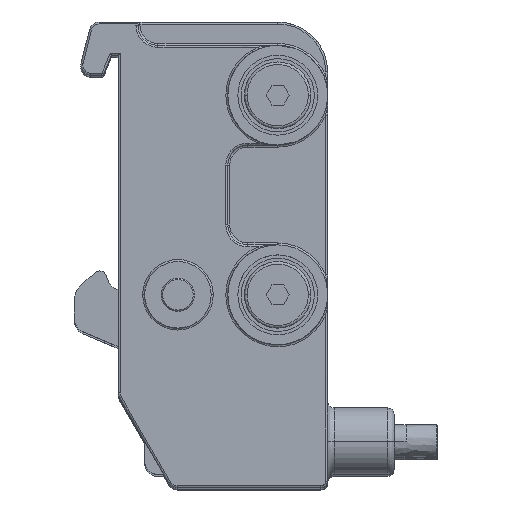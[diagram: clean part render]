
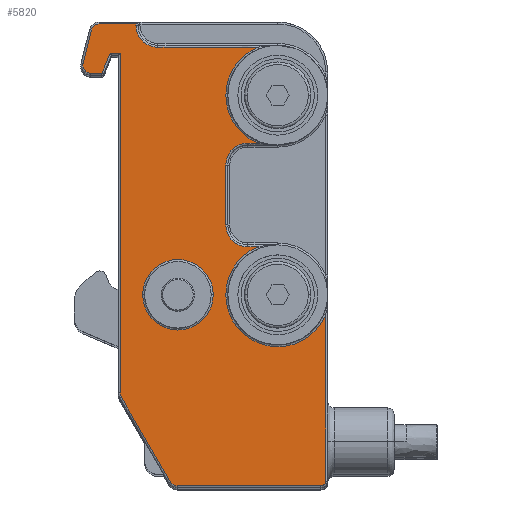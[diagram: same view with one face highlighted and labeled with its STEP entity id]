
A CAD part, top view. The second image highlights one B-rep face of the part: STEP entity #5820.
In plain terms, the highlighted free-form (B-spline) face has degree [1, 1] with [2, 2] control points.
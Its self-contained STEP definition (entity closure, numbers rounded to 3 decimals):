
#212=DIRECTION('',(0.,-1.,0.));
#213=VECTOR('',#212,51.042);
#214=CARTESIAN_POINT('',(-120.,119.55,96.5));
#215=LINE('',#214,#213);
#660=DIRECTION('',(0.,-1.,0.));
#661=VECTOR('',#660,25.);
#662=CARTESIAN_POINT('',(-89.1,80.25,96.5));
#663=LINE('',#662,#661);
#664=CARTESIAN_POINT('',(-89.8,55.25,96.5));
#665=DIRECTION('',(0.,0.,-1.));
#666=DIRECTION('',(1.,0.,0.));
#667=AXIS2_PLACEMENT_3D('',#664,#665,#666);
#669=DIRECTION('',(-1.,0.,0.));
#670=VECTOR('',#669,21.634);
#671=CARTESIAN_POINT('',(-89.8,54.55,96.5));
#672=LINE('',#671,#670);
#673=CARTESIAN_POINT('',(-111.434,55.75,96.5));
#674=DIRECTION('',(0.,0.,-1.));
#675=DIRECTION('',(0.,-1.,0.));
#676=AXIS2_PLACEMENT_3D('',#673,#674,#675);
#678=DIRECTION('',(-0.5,0.866,0.));
#679=VECTOR('',#678,14.732);
#680=CARTESIAN_POINT('',(-112.473,55.15,96.5));
#681=LINE('',#680,#679);
#682=CARTESIAN_POINT('',(-118.8,68.508,96.5));
#683=DIRECTION('',(0.,0.,-1.));
#684=DIRECTION('',(-0.866,-0.5,0.));
#685=AXIS2_PLACEMENT_3D('',#682,#683,#684);
#687=DIRECTION('',(-1.,0.,0.));
#688=VECTOR('',#687,1.502);
#689=CARTESIAN_POINT('',(-120.,119.55,96.5));
#690=LINE('',#689,#688);
#691=DIRECTION('',(0.375,0.927,0.));
#692=VECTOR('',#691,3.236);
#693=CARTESIAN_POINT('',(-122.714,116.55,96.5));
#694=LINE('',#693,#692);
#695=DIRECTION('',(1.,0.,0.));
#696=VECTOR('',#695,1.664);
#697=CARTESIAN_POINT('',(-124.379,116.55,96.5));
#698=LINE('',#697,#696);
#699=CARTESIAN_POINT('',(-124.379,117.75,96.5));
#700=DIRECTION('',(0.,0.,1.));
#701=DIRECTION('',(-0.97,0.243,0.));
#702=AXIS2_PLACEMENT_3D('',#699,#700,#701);
#704=DIRECTION('',(-0.243,-0.97,0.));
#705=VECTOR('',#704,5.154);
#706=CARTESIAN_POINT('',(-124.293,123.041,96.5));
#707=LINE('',#706,#705);
#708=CARTESIAN_POINT('',(-123.129,122.75,96.5));
#709=DIRECTION('',(0.,0.,1.));
#710=DIRECTION('',(0.,1.,0.));
#711=AXIS2_PLACEMENT_3D('',#708,#709,#710);
#713=DIRECTION('',(-1.,0.,0.));
#714=VECTOR('',#713,5.529);
#715=CARTESIAN_POINT('',(-117.6,123.95,96.5));
#716=LINE('',#715,#714);
#717=DIRECTION('',(0.,1.,0.));
#718=VECTOR('',#717,0.2);
#719=CARTESIAN_POINT('',(-117.6,123.75,96.5));
#720=LINE('',#719,#718);
#721=CARTESIAN_POINT('',(-114.3,123.75,96.5));
#722=DIRECTION('',(0.,0.,-1.));
#723=DIRECTION('',(0.,-1.,0.));
#724=AXIS2_PLACEMENT_3D('',#721,#722,#723);
#726=DIRECTION('',(-1.,0.,0.));
#727=VECTOR('',#726,15.);
#728=CARTESIAN_POINT('',(-99.3,120.45,96.5));
#729=LINE('',#728,#727);
#730=DIRECTION('',(1.,0.,0.));
#731=VECTOR('',#730,1.5);
#732=CARTESIAN_POINT('',(-100.8,106.05,96.5));
#733=LINE('',#732,#731);
#734=CARTESIAN_POINT('',(-100.8,102.75,96.5));
#735=DIRECTION('',(0.,0.,-1.));
#736=DIRECTION('',(-1.,0.,0.));
#737=AXIS2_PLACEMENT_3D('',#734,#735,#736);
#739=DIRECTION('',(0.,1.,0.));
#740=VECTOR('',#739,9.);
#741=CARTESIAN_POINT('',(-104.1,93.75,96.5));
#742=LINE('',#741,#740);
#743=CARTESIAN_POINT('',(-100.8,93.75,96.5));
#744=DIRECTION('',(0.,0.,-1.));
#745=DIRECTION('',(0.,-1.,0.));
#746=AXIS2_PLACEMENT_3D('',#743,#744,#745);
#748=DIRECTION('',(-1.,0.,0.));
#749=VECTOR('',#748,1.5);
#750=CARTESIAN_POINT('',(-99.3,90.45,96.5));
#751=LINE('',#750,#749);
#752=CARTESIAN_POINT('',(-111.3,83.25,96.5));
#753=DIRECTION('',(0.,0.,1.));
#754=DIRECTION('',(1.,0.,0.));
#755=AXIS2_PLACEMENT_3D('',#752,#753,#754);
#757=CARTESIAN_POINT('',(-111.3,83.25,96.5));
#758=DIRECTION('',(0.,0.,1.));
#759=DIRECTION('',(-1.,0.,0.));
#760=AXIS2_PLACEMENT_3D('',#757,#758,#759);
#762=CARTESIAN_POINT('',(-96.3,83.25,96.5));
#763=DIRECTION('',(0.,0.,-1.));
#764=DIRECTION('',(0.923,-0.385,0.));
#765=AXIS2_PLACEMENT_3D('',#762,#763,#764);
#819=CARTESIAN_POINT('',(-89.1,80.25,96.5));
#1047=CARTESIAN_POINT('',(-99.3,106.05,96.5));
#1066=CARTESIAN_POINT('',(-96.3,113.25,96.5));
#1067=DIRECTION('',(0.,0.,-1.));
#1068=DIRECTION('',(-0.385,-0.923,0.));
#1069=AXIS2_PLACEMENT_3D('',#1066,#1067,#1068);
#1120=CARTESIAN_POINT('',(-99.3,120.45,96.5));
#2645=CARTESIAN_POINT('',(-99.3,90.45,96.5));
#3857=CARTESIAN_POINT('',(-114.3,120.45,96.5));
#3858=CARTESIAN_POINT('',(-117.6,123.75,96.5));
#3859=VERTEX_POINT('',#3857);
#3860=VERTEX_POINT('',#3858);
#3861=CARTESIAN_POINT('',(-117.6,123.95,96.5));
#3862=VERTEX_POINT('',#3861);
#3863=CARTESIAN_POINT('',(-125.543,118.041,96.5));
#3864=CARTESIAN_POINT('',(-124.379,116.55,96.5));
#3865=VERTEX_POINT('',#3863);
#3866=VERTEX_POINT('',#3864);
#3871=CARTESIAN_POINT('',(-124.293,123.041,96.5));
#3872=VERTEX_POINT('',#3871);
#3875=CARTESIAN_POINT('',(-123.129,123.95,96.5));
#3876=VERTEX_POINT('',#3875);
#3886=CARTESIAN_POINT('',(-119.839,67.908,96.5));
#3887=CARTESIAN_POINT('',(-120.,68.508,96.5));
#3888=VERTEX_POINT('',#3886);
#3889=VERTEX_POINT('',#3887);
#3892=CARTESIAN_POINT('',(-112.473,55.15,96.5));
#3893=VERTEX_POINT('',#3892);
#3896=CARTESIAN_POINT('',(-111.434,54.55,96.5));
#3897=VERTEX_POINT('',#3896);
#3900=CARTESIAN_POINT('',(-89.8,54.55,96.5));
#3901=VERTEX_POINT('',#3900);
#3904=CARTESIAN_POINT('',(-89.1,55.25,96.5));
#3905=VERTEX_POINT('',#3904);
#4019=CARTESIAN_POINT('',(-104.1,102.75,96.5));
#4020=CARTESIAN_POINT('',(-100.8,106.05,96.5));
#4021=VERTEX_POINT('',#4019);
#4022=VERTEX_POINT('',#4020);
#4027=CARTESIAN_POINT('',(-104.1,93.75,96.5));
#4028=VERTEX_POINT('',#4027);
#4031=CARTESIAN_POINT('',(-100.8,90.45,96.5));
#4032=VERTEX_POINT('',#4031);
#4060=CARTESIAN_POINT('',(-120.,119.55,96.5));
#4061=CARTESIAN_POINT('',(-121.502,119.55,96.5));
#4062=VERTEX_POINT('',#4060);
#4063=VERTEX_POINT('',#4061);
#4066=CARTESIAN_POINT('',(-122.714,116.55,96.5));
#4067=VERTEX_POINT('',#4066);
#4110=CARTESIAN_POINT('',(-106.,83.25,96.5));
#4111=CARTESIAN_POINT('',(-116.6,83.25,96.5));
#4112=VERTEX_POINT('',#4110);
#4113=VERTEX_POINT('',#4111);
#4121=VERTEX_POINT('',#819);
#4128=VERTEX_POINT('',#2645);
#4129=VERTEX_POINT('',#1047);
#4137=VERTEX_POINT('',#1120);
#5763=CARTESIAN_POINT('',(-126.308,53.162,96.5));
#5764=CARTESIAN_POINT('',(-126.308,125.338,96.5));
#5765=CARTESIAN_POINT('',(-88.37,53.162,96.5));
#5766=CARTESIAN_POINT('',(-88.37,125.338,96.5));
#5767=B_SPLINE_SURFACE_WITH_KNOTS('',1,1,((#5763,#5764),(#5765,#5766)),
.UNSPECIFIED.,.F.,.F.,.F.,(2,2),(2,2),(-4.008,33.93),(
-3.088,69.088),.UNSPECIFIED.);
#5769=ORIENTED_EDGE('',*,*,#5768,.F.);
#5771=ORIENTED_EDGE('',*,*,#5770,.T.);
#5773=ORIENTED_EDGE('',*,*,#5772,.T.);
#5775=ORIENTED_EDGE('',*,*,#5774,.T.);
#5777=ORIENTED_EDGE('',*,*,#5776,.T.);
#5778=ORIENTED_EDGE('',*,*,#5756,.T.);
#5779=ORIENTED_EDGE('',*,*,#4774,.T.);
#5780=ORIENTED_EDGE('',*,*,#4797,.F.);
#5781=ORIENTED_EDGE('',*,*,#4820,.T.);
#5783=ORIENTED_EDGE('',*,*,#5782,.F.);
#5785=ORIENTED_EDGE('',*,*,#5784,.F.);
#5787=ORIENTED_EDGE('',*,*,#5786,.F.);
#5789=ORIENTED_EDGE('',*,*,#5788,.F.);
#5791=ORIENTED_EDGE('',*,*,#5790,.F.);
#5793=ORIENTED_EDGE('',*,*,#5792,.F.);
#5795=ORIENTED_EDGE('',*,*,#5794,.F.);
#5797=ORIENTED_EDGE('',*,*,#5796,.F.);
#5799=ORIENTED_EDGE('',*,*,#5798,.F.);
#5801=ORIENTED_EDGE('',*,*,#5800,.F.);
#5803=ORIENTED_EDGE('',*,*,#5802,.F.);
#5805=ORIENTED_EDGE('',*,*,#5804,.F.);
#5807=ORIENTED_EDGE('',*,*,#5806,.F.);
#5809=ORIENTED_EDGE('',*,*,#5808,.F.);
#5811=ORIENTED_EDGE('',*,*,#5810,.F.);
#5812=EDGE_LOOP('',(#5769,#5771,#5773,#5775,#5777,#5778,#5779,#5780,#5781,#5783,
#5785,#5787,#5789,#5791,#5793,#5795,#5797,#5799,#5801,#5803,#5805,#5807,#5809,
#5811));
#5813=FACE_OUTER_BOUND('',#5812,.F.);
#5815=ORIENTED_EDGE('',*,*,#5814,.T.);
#5817=ORIENTED_EDGE('',*,*,#5816,.T.);
#5818=EDGE_LOOP('',(#5815,#5817));
#5819=FACE_BOUND('',#5818,.F.);
#5820=ADVANCED_FACE('',(#5813,#5819),#5767,.T.);
#668=CIRCLE('',#667,0.7);
#677=CIRCLE('',#676,1.2);
#686=CIRCLE('',#685,1.2);
#703=CIRCLE('',#702,1.2);
#712=CIRCLE('',#711,1.2);
#725=CIRCLE('',#724,3.3);
#738=CIRCLE('',#737,3.3);
#747=CIRCLE('',#746,3.3);
#756=CIRCLE('',#755,5.3);
#761=CIRCLE('',#760,5.3);
#766=CIRCLE('',#765,7.8);
#1070=CIRCLE('',#1069,7.8);
#4774=EDGE_CURVE('',#3888,#3889,#686,.T.);
#4797=EDGE_CURVE('',#4062,#3889,#215,.T.);
#4820=EDGE_CURVE('',#4062,#4063,#690,.T.);
#5756=EDGE_CURVE('',#3893,#3888,#681,.T.);
#5768=EDGE_CURVE('',#4121,#4128,#766,.T.);
#5770=EDGE_CURVE('',#4121,#3905,#663,.T.);
#5772=EDGE_CURVE('',#3905,#3901,#668,.T.);
#5774=EDGE_CURVE('',#3901,#3897,#672,.T.);
#5776=EDGE_CURVE('',#3897,#3893,#677,.T.);
#5782=EDGE_CURVE('',#4067,#4063,#694,.T.);
#5784=EDGE_CURVE('',#3866,#4067,#698,.T.);
#5786=EDGE_CURVE('',#3865,#3866,#703,.T.);
#5788=EDGE_CURVE('',#3872,#3865,#707,.T.);
#5790=EDGE_CURVE('',#3876,#3872,#712,.T.);
#5792=EDGE_CURVE('',#3862,#3876,#716,.T.);
#5794=EDGE_CURVE('',#3860,#3862,#720,.T.);
#5796=EDGE_CURVE('',#3859,#3860,#725,.T.);
#5798=EDGE_CURVE('',#4137,#3859,#729,.T.);
#5800=EDGE_CURVE('',#4129,#4137,#1070,.T.);
#5802=EDGE_CURVE('',#4022,#4129,#733,.T.);
#5804=EDGE_CURVE('',#4021,#4022,#738,.T.);
#5806=EDGE_CURVE('',#4028,#4021,#742,.T.);
#5808=EDGE_CURVE('',#4032,#4028,#747,.T.);
#5810=EDGE_CURVE('',#4128,#4032,#751,.T.);
#5814=EDGE_CURVE('',#4112,#4113,#756,.T.);
#5816=EDGE_CURVE('',#4113,#4112,#761,.T.);
